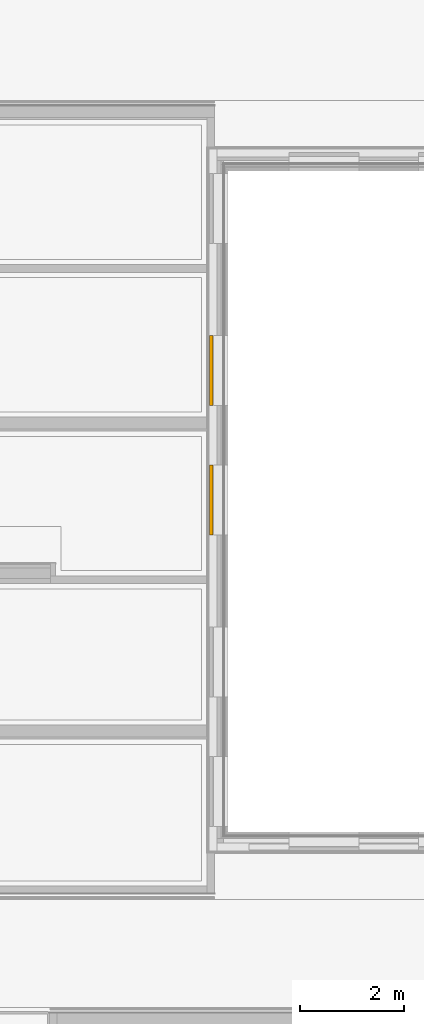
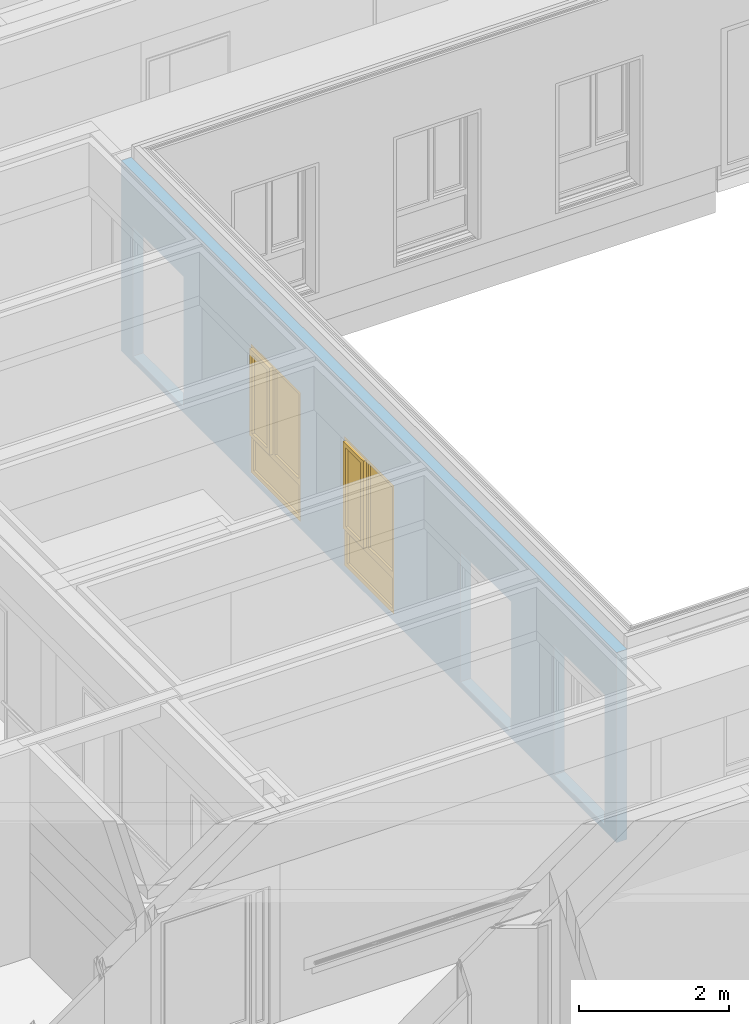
# One storey, part 78 of 207: 2 windows, 5 openings, plus 1 element that does not belong to this part.
"""IFC4 building model written with IfcOpenShell, lengths in metres."""

import ifcopenshell
import ifcopenshell.guid

model = None  # the IFC model being written
_history = None  # IfcOwnerHistory: only IFC2X3 demands one
_inside = {}  # id of a spatial element -> (the spatial element, [elements in it])
_under = {}  # id of a project, library or spatial element -> (it, [spatial elements below it])
_declared = {}  # id of a project -> (the project, [libraries it declares])
_typed = {}  # id of a type object -> (the type object, [elements of that type])
_made_of = {}  # id of a material, layer set ... -> (it, [elements and type objects made of it])


def new_model(schema):
    """Start an empty IFC model of exactly this schema.

    Asked for "IFC4X3", IfcOpenShell would pick the latest addendum, in which some entities
    have other attributes; the version numbers below select the first issue.
    IFC2X3 requires an IfcOwnerHistory on every rooted entity: one is made here for all.
    """
    global model, _history
    if schema == "IFC4X3":
        model = ifcopenshell.file(schema_version=(4, 3, 0, 0))
    else:
        model = ifcopenshell.file(schema=schema)
    _inside.clear()
    _under.clear()
    _declared.clear()
    _typed.clear()
    _made_of.clear()
    _history = None
    if model.schema == "IFC2X3":
        org = make("IfcOrganization", Name="unknown")
        user = make(
            "IfcPersonAndOrganization",
            ThePerson=make("IfcPerson", FamilyName="unknown"),
            TheOrganization=org,
        )
        app = make(
            "IfcApplication",
            ApplicationDeveloper=org,
            Version="unknown",
            ApplicationFullName="unknown",
            ApplicationIdentifier="unknown",
        )
        _history = make(
            "IfcOwnerHistory",
            OwningUser=user,
            OwningApplication=app,
            ChangeAction="ADDED",
            CreationDate=0,
        )
    return model


def make(cls, **values):
    """One entity of the class cls with the attributes given. An attribute that is None is left unset."""
    return model.create_entity(
        cls, **{name: value for name, value in values.items() if value is not None}
    )


def entity(cls, *values):
    """Any entity or typed value of the class cls, its attributes in the order of the schema. None: left unset."""
    e = model.create_entity(cls)
    for i, value in enumerate(values):
        if value is not None:
            e[i] = value
    return e


def rooted(cls, **values):
    """An entity with a GlobalId (a new one), such as an element, a storey or a relation."""
    return make(cls, GlobalId=ifcopenshell.guid.new(), OwnerHistory=_history, **values)


def si_unit(unit_type, name, prefix=None):
    """IfcSIUnit, for example si_unit("LENGTHUNIT", "METRE", prefix="MILLI")."""
    return make("IfcSIUnit", UnitType=unit_type, Prefix=prefix, Name=name)


def converted_unit(unit_type, name, factor, base, dimensions=None, offset=None):
    """IfcConversionBasedUnit, such as the inch: factor (a typed value) times the base unit."""
    return make(
        "IfcConversionBasedUnit"
        if offset is None
        else "IfcConversionBasedUnitWithOffset",
        ConversionOffset=offset,
        Dimensions=None
        if dimensions is None
        else entity("IfcDimensionalExponents", *dimensions),
        UnitType=unit_type,
        Name=name,
        ConversionFactor=make(
            "IfcMeasureWithUnit", ValueComponent=factor, UnitComponent=base
        ),
    )


def derived_unit(unit_type, elements):
    """IfcDerivedUnit: a product of units, each with its exponent."""
    return make(
        "IfcDerivedUnit",
        Elements=[
            make("IfcDerivedUnitElement", Unit=unit, Exponent=power)
            for unit, power in elements
        ],
        UnitType=unit_type,
    )


def assignment(units):
    """IfcUnitAssignment: the units of a project."""
    return None if units is None else make("IfcUnitAssignment", Units=units)


def point(xyz):
    """IfcCartesianPoint."""
    return None if xyz is None else make("IfcCartesianPoint", Coordinates=xyz)


def direction(xyz):
    """IfcDirection."""
    return None if xyz is None else make("IfcDirection", DirectionRatios=xyz)


def frame(location, z_axis=None, x_axis=None):
    """IfcAxis2Placement3D, a coordinate frame: its origin and axes. An axis left out is left unset."""
    return make(
        "IfcAxis2Placement3D",
        Location=point(location),
        Axis=direction(z_axis),
        RefDirection=direction(x_axis),
    )


def frame_2d(location, x_axis=None):
    """IfcAxis2Placement2D, a coordinate frame in the plane: its origin and x axis."""
    return make(
        "IfcAxis2Placement2D", Location=point(location), RefDirection=direction(x_axis)
    )


def origin():
    """The frame at (0, 0, 0) with its axes left unset."""
    return frame((0.0, 0.0, 0.0))


def origin_with_axes():
    """The frame at (0, 0, 0) with the z axis (0, 0, 1) and the x axis (1, 0, 0) written out."""
    return frame((0.0, 0.0, 0.0), z_axis=(0.0, 0.0, 1.0), x_axis=(1.0, 0.0, 0.0))


def place(relative_to, where):
    """IfcLocalPlacement: puts the frame where relative to a parent placement (None: the world)."""
    return make(
        "IfcLocalPlacement", PlacementRelTo=relative_to, RelativePlacement=where
    )


def context(
    kind, dimensions, precision=None, world=None, true_north=None, identifier=None
):
    """IfcGeometricRepresentationContext, for example the 3D "Model" context."""
    return make(
        "IfcGeometricRepresentationContext",
        ContextIdentifier=identifier,
        ContextType=kind,
        CoordinateSpaceDimension=dimensions,
        Precision=precision,
        WorldCoordinateSystem=world,
        TrueNorth=true_north,
    )


def subcontext(parent, identifier, kind, view, scale=None):
    """IfcGeometricRepresentationSubContext, for example "Body" below "Model"."""
    return make(
        "IfcGeometricRepresentationSubContext",
        ContextIdentifier=identifier,
        ContextType=kind,
        ParentContext=parent,
        TargetScale=scale,
        TargetView=view,
    )


def project(units=None, contexts=None):
    """IfcProject with its units and contexts."""
    return rooted(
        "IfcProject",
        Name="project",
        RepresentationContexts=contexts,
        UnitsInContext=assignment(units),
    )


def spatial(cls, under=None, at=None, **own):
    """A site, building, storey or space (cls), placed at a placement, below another one or the project."""
    s = rooted(cls, ObjectPlacement=at, **own)
    if under is not None:
        _under.setdefault(under.id(), (under, []))[1].append(s)
    return s


def polyline(points):
    """IfcPolyline through the points."""
    return make("IfcPolyline", Points=[point(p) for p in points])


def profile(cls, at=None, kind="AREA", **sizes):
    """A parametric profile (cls). Its sizes go by their IFC names, for example OverallWidth=200.0."""
    return make(cls, ProfileType=kind, Position=at, **sizes)


def rectangle(**sizes):
    """IfcRectangleProfileDef."""
    return profile("IfcRectangleProfileDef", **sizes)


def outline(outer, holes=None, kind="AREA"):
    """IfcArbitraryClosedProfileDef: a profile drawn as a closed curve; with holes, ...WithVoids."""
    if holes is None:
        return make("IfcArbitraryClosedProfileDef", ProfileType=kind, OuterCurve=outer)
    return make(
        "IfcArbitraryProfileDefWithVoids",
        ProfileType=kind,
        OuterCurve=outer,
        InnerCurves=holes,
    )


def extrude(swept, where, along, depth):
    """IfcExtrudedAreaSolid: the profile swept, set in the frame where, extruded along a direction by depth."""
    return make(
        "IfcExtrudedAreaSolid",
        SweptArea=swept,
        Position=where,
        ExtrudedDirection=direction(along),
        Depth=depth,
    )


def faces_of(points, faces, orient=None, outer=None):
    """IfcFace entities. A face is a list of loops; a loop is a list of indices into points, from 0.

    orient and outer hold one flag for each loop. By default every Orientation is true, the
    first loop of a face is its IfcFaceOuterBound and the others are IfcFaceBound.
    """
    made = []
    for i, loops in enumerate(faces):
        bounds = []
        for j, loop in enumerate(loops):
            is_outer = j == 0 if outer is None else outer[i][j]
            bounds.append(
                make(
                    "IfcFaceOuterBound" if is_outer else "IfcFaceBound",
                    Bound=make("IfcPolyLoop", Polygon=[points[k] for k in loop]),
                    Orientation=True if orient is None else orient[i][j],
                )
            )
        made.append(make("IfcFace", Bounds=bounds))
    return made


def closed_shell(faces, orient=None, outer=None):
    """The faces of one IfcClosedShell. faceted_brep and surface_model build it on their shared points."""
    return ("IfcClosedShell", faces, orient, outer)


def open_shell(faces, orient=None, outer=None):
    """The faces of one IfcOpenShell. surface_model builds it on its shared points."""
    return ("IfcOpenShell", faces, orient, outer)


def surface_model(cls, points, shells):
    """IfcFaceBasedSurfaceModel or IfcShellBasedSurfaceModel (cls): surfaces that need not close."""
    shared = [point(p) for p in points]
    made = [make(c, CfsFaces=faces_of(shared, fs, o, b)) for c, fs, o, b in shells]
    if cls == "IfcFaceBasedSurfaceModel":
        return make(cls, FbsmFaces=made)
    return make(cls, SbsmBoundary=made)


def shape(context_of_items, identifier, shape_type, items):
    """IfcShapeRepresentation: the items that make up one representation, for example the "Body"."""
    return make(
        "IfcShapeRepresentation",
        ContextOfItems=context_of_items,
        RepresentationIdentifier=identifier,
        RepresentationType=shape_type,
        Items=items,
    )


def source(mapping_origin, context_of_items, identifier, shape_type, items):
    """IfcRepresentationMap: a shape defined once, which mapped items show again and again."""
    return make(
        "IfcRepresentationMap",
        MappingOrigin=mapping_origin,
        MappedRepresentation=shape(context_of_items, identifier, shape_type, items),
    )


def transform(
    local_origin,
    x_axis=None,
    y_axis=None,
    z_axis=None,
    scale=None,
    scale2=None,
    scale3=None,
    uniform=True,
):
    """IfcCartesianTransformationOperator3D, or its non-uniform kind. x_axis, y_axis, z_axis: its Axis1, 2, 3."""
    if uniform:
        return make(
            "IfcCartesianTransformationOperator3D",
            Axis1=direction(x_axis),
            Axis2=direction(y_axis),
            LocalOrigin=point(local_origin),
            Scale=scale,
            Axis3=direction(z_axis),
        )
    return make(
        "IfcCartesianTransformationOperator3DnonUniform",
        Axis1=direction(x_axis),
        Axis2=direction(y_axis),
        LocalOrigin=point(local_origin),
        Scale=scale,
        Axis3=direction(z_axis),
        Scale2=scale2,
        Scale3=scale3,
    )


def mapped(mapping_source, mapping_target):
    """IfcMappedItem: shows the shape of a source again, moved by a transform."""
    return make(
        "IfcMappedItem", MappingSource=mapping_source, MappingTarget=mapping_target
    )


def material(Name=None, Category=None):
    """IfcMaterial."""
    return make("IfcMaterial", Name=Name, Category=Category)


def made_of(thing, what):
    """Note that an element or type object is made of a material, layer set ...; save() writes the relation."""
    if what is not None:
        _made_of.setdefault(what.id(), (what, []))[1].append(thing)
    return thing


def element(
    cls,
    number,
    at=None,
    inside=None,
    cuts=None,
    type_object=None,
    material=None,
    context=None,
    identifier="Body",
    shape_type=None,
    held_by="IfcProductDefinitionShape",
    body=None,
    shapes=None,
    **own,
):
    """One element of the class cls, such as IfcWall. Its Tag is "e" and its number.

    at: its placement. inside: the storey or other place that contains it. cuts: it is an
    opening in that element (IfcRelVoidsElement). A single representation is given by context,
    identifier, shape_type and body (its items); several are given by shapes. held_by: the class
    of the entity that holds the representations. save() writes the other relations.
    """
    e = rooted(cls, Tag="e%d" % number, ObjectPlacement=at, **own)
    if body is not None:
        shapes = [shape(context, identifier, shape_type, body)]
    if shapes is not None:
        e.Representation = make(held_by, Representations=shapes)
    if inside is not None:
        _inside.setdefault(inside.id(), (inside, []))[1].append(e)
    if cuts is not None:
        rooted(
            "IfcRelVoidsElement", RelatingBuildingElement=cuts, RelatedOpeningElement=e
        )
    if type_object is not None:
        _typed.setdefault(type_object.id(), (type_object, []))[1].append(e)
    return made_of(e, material)


def fill(opening, filler):
    """IfcRelFillsElement: the door or window that sits in an opening."""
    return rooted(
        "IfcRelFillsElement",
        RelatingOpeningElement=opening,
        RelatedBuildingElement=filler,
    )


def aggregate(whole, parts):
    """IfcRelAggregates: a whole, such as a stair, and the parts it consists of."""
    return rooted("IfcRelAggregates", RelatingObject=whole, RelatedObjects=parts)


def save(model, path):
    """Write the relations noted so far, then the file.

    IfcRelAggregates (storeys below a building ...), IfcRelContainedInSpatialStructure (elements
    in a storey), IfcRelDefinesByType, IfcRelAssociatesMaterial and IfcRelDeclares: one each for
    every whole, place, type object, material and project.
    """
    for whole, parts in _under.values():
        aggregate(whole, parts)
    for where, things in _inside.values():
        rooted(
            "IfcRelContainedInSpatialStructure",
            RelatedElements=things,
            RelatingStructure=where,
        )
    for kind, things in _typed.values():
        rooted("IfcRelDefinesByType", RelatedObjects=things, RelatingType=kind)
    for what, things in _made_of.values():
        rooted("IfcRelAssociatesMaterial", RelatedObjects=things, RelatingMaterial=what)
    for by, libraries in _declared.values():
        rooted("IfcRelDeclares", RelatingContext=by, RelatedDefinitions=libraries)
    model.write(path)


model = new_model("IFC4")

# Units and contexts
model_context = context("Model", 3, precision=1e-05, world=origin())
body_context = subcontext(model_context, "Body", "Model", "MODEL_VIEW")
ifc_project = project(units=[si_unit("LENGTHUNIT", "METRE"), si_unit("AREAUNIT", "SQUARE_METRE"), si_unit("VOLUMEUNIT", "CUBIC_METRE"), si_unit("MASSUNIT", "GRAM", prefix="KILO"), converted_unit("PLANEANGLEUNIT", "DEGREE", entity("IfcPlaneAngleMeasure", 0.0174532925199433), si_unit("PLANEANGLEUNIT", "RADIAN"), dimensions=[0, 0, 0, 0, 0, 0, 0]), derived_unit("THERMALTRANSMITTANCEUNIT", [(si_unit("POWERUNIT", "WATT"), 1), (si_unit("THERMODYNAMICTEMPERATUREUNIT", "KELVIN"), -1), (si_unit("LENGTHUNIT", "METRE"), -2)]), derived_unit("VOLUMETRICFLOWRATEUNIT", [(si_unit("LENGTHUNIT", "METRE"), 3), (converted_unit("TIMEUNIT", "hour", entity("IfcTimeMeasure", 3600.0), si_unit("TIMEUNIT", "SECOND"), dimensions=[0, 0, 1, 0, 0, 0, 0]), -1), (si_unit("LENGTHUNIT", "METRE"), -1)])], contexts=[model_context])

# Site, building, storey
site_placement = place(None, origin())
site = spatial("IfcSite", under=ifc_project, at=site_placement, Name="Psychiatrie Neubau Wunstorf", CompositionType="ELEMENT")
building_placement = place(site_placement, origin())
building = spatial("IfcBuilding", under=site, at=building_placement, Name="Neubau H2 Stationsgebäude", CompositionType="ELEMENT")
storey_placement = place(building_placement, frame((0.0, 0.0, -0.2)))
storey = spatial("IfcBuildingStorey", under=building, at=storey_placement, Name="H2 Ebene 0", CompositionType="ELEMENT", Elevation=-0.2)

# Wall, openings, windows
ifc_material = material(Name="WA-HD")
wall_placement = place(storey_placement, frame((15.675, 20.84, 0.5), z_axis=(0.0, 0.0, 1.0), x_axis=(-1.3748975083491e-16, -1.0, 0.0)))
wall = element("IfcWall", 1, at=wall_placement, inside=storey, material=ifc_material, context=body_context, shape_type="SweptSolid", body=[
    extrude(rectangle(XDim=13.23, YDim=0.16, at=frame_2d((6.615, 0.08), x_axis=(1.0, 0.0))), origin_with_axes(), (0.0, 0.0, 1.0), 3.1),
])
opening_1_placement = place(wall_placement, frame((12.915, 0.16, 0.1), z_axis=(0.0, -1.0, 0.0), x_axis=(0.0, 0.0, 1.0)))
element("IfcOpeningElement", 2, at=opening_1_placement, cuts=wall, Name="Fensteröffnung", ObjectType="Opening", context=body_context, shape_type="SweptSolid", body=[
    extrude(outline(polyline([(2.12, 1.35), (2.12, 0.0), (0.0, 0.0), (0.0, 1.35), (2.12, 1.35)])), origin_with_axes(), (0.0, 0.0, 1.0), 0.16),
])
opening_2_placement = place(wall_placement, frame((10.415, 0.16, 0.1), z_axis=(0.0, -1.0, 0.0), x_axis=(0.0, 0.0, 1.0)))
element("IfcOpeningElement", 3, at=opening_2_placement, cuts=wall, Name="Fensteröffnung", ObjectType="Opening", context=body_context, shape_type="SweptSolid", body=[
    extrude(outline(polyline([(2.12, 1.35), (2.12, 0.0), (0.0, 0.0), (0.0, 1.35), (2.12, 1.35)])), origin_with_axes(), (0.0, 0.0, 1.0), 0.16),
])
opening_3_placement = place(wall_placement, frame((1.66500000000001, 0.16, 0.1), z_axis=(0.0, -1.0, 0.0), x_axis=(0.0, 0.0, 1.0)))
element("IfcOpeningElement", 4, at=opening_3_placement, cuts=wall, Name="Fensteröffnung", ObjectType="Opening", context=body_context, shape_type="SweptSolid", body=[
    extrude(outline(polyline([(2.12, 1.35), (2.12, 0.0), (0.0, 0.0), (0.0, 1.35), (2.12, 1.35)])), origin_with_axes(), (0.0, 0.0, 1.0), 0.16),
])
opening_4_placement = place(wall_placement, frame((4.79, 0.160000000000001, 0.1), z_axis=(0.0, -1.0, 0.0), x_axis=(0.0, 0.0, 1.0)))
opening_4 = element("IfcOpeningElement", 5, at=opening_4_placement, cuts=wall, Name="Fensteröffnung", ObjectType="Opening", context=body_context, shape_type="SweptSolid", body=[
    extrude(outline(polyline([(2.12, 1.35), (2.12, 0.0), (0.0, 0.0), (0.0, 1.35), (2.12, 1.35)])), origin_with_axes(), (0.0, 0.0, 1.0), 0.16),
])
opening_5_placement = place(wall_placement, frame((7.29, 0.159999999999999, 0.1), z_axis=(0.0, -1.0, 0.0), x_axis=(0.0, 0.0, 1.0)))
opening_5 = element("IfcOpeningElement", 6, at=opening_5_placement, cuts=wall, Name="Fensteröffnung", ObjectType="Opening", context=body_context, shape_type="SweptSolid", body=[
    extrude(outline(polyline([(2.12, 1.35), (2.12, 0.0), (0.0, 0.0), (0.0, 1.35), (2.12, 1.35)])), origin_with_axes(), (0.0, 0.0, 1.0), 0.16),
])
shared_shape_1 = source(origin_with_axes(), body_context, "Body", "SurfaceModel", [
    surface_model("IfcShellBasedSurfaceModel", [(0.0, 0.0, 2.12), (0.0700000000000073, 0.0, 2.12), (0.0700000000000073, 0.0, 0.0), (0.0, 0.0, 0.0), (0.0, 0.0699999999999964, 0.0), (0.0700000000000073, 0.0699999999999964, 0.0), (0.0700000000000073, 0.0699999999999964, 2.12), (0.0, 0.0699999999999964, 2.12)], [closed_shell([[[0, 1, 2, 3]], [[4, 5, 6, 7]], [[3, 4, 7, 0]], [[2, 5, 4, 3]], [[1, 6, 5, 2]], [[0, 7, 6, 1]]], orient=[[False], [False], [False], [False], [False], [False]])]),
    surface_model("IfcShellBasedSurfaceModel", [(1.28000000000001, 0.0, 2.12), (1.35000000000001, 0.0, 2.12), (1.35000000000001, 0.0, 0.0), (1.28000000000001, 0.0, 0.0), (1.28000000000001, 0.0699999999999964, 0.0), (1.35000000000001, 0.0699999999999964, 0.0), (1.35000000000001, 0.0699999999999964, 2.12), (1.28000000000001, 0.0699999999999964, 2.12)], [closed_shell([[[0, 1, 2, 3]], [[4, 5, 6, 7]], [[3, 4, 7, 0]], [[2, 5, 4, 3]], [[1, 6, 5, 2]], [[0, 7, 6, 1]]], orient=[[False], [False], [False], [False], [False], [False]])]),
    surface_model("IfcShellBasedSurfaceModel", [(0.0700000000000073, 0.0, 0.07), (1.28000000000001, 0.0, 0.07), (1.28000000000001, 0.0, 0.0), (0.0700000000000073, 0.0, 0.0), (0.0700000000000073, 0.0699999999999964, 0.0), (1.28000000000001, 0.0699999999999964, 0.0), (1.28000000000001, 0.0699999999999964, 0.07), (0.0700000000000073, 0.0699999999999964, 0.07)], [closed_shell([[[0, 1, 2, 3]], [[4, 5, 6, 7]], [[3, 4, 7, 0]], [[2, 5, 4, 3]], [[1, 6, 5, 2]], [[0, 7, 6, 1]]], orient=[[False], [False], [False], [False], [False], [False]])]),
    surface_model("IfcShellBasedSurfaceModel", [(0.0700000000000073, 0.0, 2.12), (1.28000000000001, 0.0, 2.12), (1.28000000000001, 0.0, 2.05), (0.0700000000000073, 0.0, 2.05), (0.0700000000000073, 0.0699999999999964, 2.05), (1.28000000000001, 0.0699999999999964, 2.05), (1.28000000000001, 0.0699999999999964, 2.12), (0.0700000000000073, 0.0699999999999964, 2.12)], [closed_shell([[[0, 1, 2, 3]], [[4, 5, 6, 7]], [[3, 4, 7, 0]], [[2, 5, 4, 3]], [[1, 6, 5, 2]], [[0, 7, 6, 1]]], orient=[[False], [False], [False], [False], [False], [False]])]),
    surface_model("IfcShellBasedSurfaceModel", [(0.0700000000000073, 0.0, 0.67), (1.28000000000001, 0.0, 0.67), (1.28000000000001, 0.0, 0.57), (0.0700000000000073, 0.0, 0.57), (0.0700000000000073, 0.0699999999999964, 0.57), (1.28000000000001, 0.0699999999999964, 0.57), (1.28000000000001, 0.0699999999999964, 0.67), (0.0700000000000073, 0.0699999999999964, 0.67)], [closed_shell([[[0, 1, 2, 3]], [[4, 5, 6, 7]], [[3, 4, 7, 0]], [[2, 5, 4, 3]], [[1, 6, 5, 2]], [[0, 7, 6, 1]]], orient=[[False], [False], [False], [False], [False], [False]])]),
    surface_model("IfcShellBasedSurfaceModel", [(0.0700000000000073, 0.0349999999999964, 0.07), (0.0700000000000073, 0.0349999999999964, 0.57), (1.28000000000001, 0.0349999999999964, 0.57), (1.28000000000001, 0.0349999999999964, 0.07)], [open_shell([[[0, 1, 2, 3]]], orient=[[False]])]),
    surface_model("IfcShellBasedSurfaceModel", [(0.570000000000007, 0.0, 2.05), (0.640000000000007, 0.0, 2.05), (0.640000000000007, 0.0, 0.67), (0.570000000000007, 0.0, 0.67), (0.570000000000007, 0.0699999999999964, 0.67), (0.640000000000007, 0.0699999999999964, 0.67), (0.640000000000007, 0.0699999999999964, 2.05), (0.570000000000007, 0.0699999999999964, 2.05)], [closed_shell([[[0, 1, 2, 3]], [[4, 5, 6, 7]], [[3, 4, 7, 0]], [[2, 5, 4, 3]], [[1, 6, 5, 2]], [[0, 7, 6, 1]]], orient=[[False], [False], [False], [False], [False], [False]])]),
    surface_model("IfcShellBasedSurfaceModel", [(0.0500000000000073, -0.0500000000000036, 2.07), (0.120000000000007, -0.0500000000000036, 2.07), (0.120000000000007, -0.0500000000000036, 0.65), (0.0500000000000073, -0.0500000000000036, 0.65), (0.0500000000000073, 0.0199999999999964, 0.65), (0.120000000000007, 0.0199999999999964, 0.65), (0.120000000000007, 0.0199999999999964, 2.07), (0.0500000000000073, 0.0199999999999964, 2.07)], [closed_shell([[[0, 1, 2, 3]], [[4, 5, 6, 7]], [[3, 4, 7, 0]], [[2, 5, 4, 3]], [[1, 6, 5, 2]], [[0, 7, 6, 1]]], orient=[[False], [False], [False], [False], [False], [False]])]),
    surface_model("IfcShellBasedSurfaceModel", [(0.520000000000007, -0.0500000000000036, 2.07), (0.590000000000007, -0.0500000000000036, 2.07), (0.590000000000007, -0.0500000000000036, 0.65), (0.520000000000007, -0.0500000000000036, 0.65), (0.520000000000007, 0.0199999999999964, 0.65), (0.590000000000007, 0.0199999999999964, 0.65), (0.590000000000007, 0.0199999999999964, 2.07), (0.520000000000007, 0.0199999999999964, 2.07)], [closed_shell([[[0, 1, 2, 3]], [[4, 5, 6, 7]], [[3, 4, 7, 0]], [[2, 5, 4, 3]], [[1, 6, 5, 2]], [[0, 7, 6, 1]]], orient=[[False], [False], [False], [False], [False], [False]])]),
    surface_model("IfcShellBasedSurfaceModel", [(0.120000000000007, -0.0500000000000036, 0.72), (0.520000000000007, -0.0500000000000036, 0.72), (0.520000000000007, -0.0500000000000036, 0.65), (0.120000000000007, -0.0500000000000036, 0.65), (0.120000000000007, 0.0199999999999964, 0.65), (0.520000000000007, 0.0199999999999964, 0.65), (0.520000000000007, 0.0199999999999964, 0.72), (0.120000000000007, 0.0199999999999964, 0.72)], [closed_shell([[[0, 1, 2, 3]], [[4, 5, 6, 7]], [[3, 4, 7, 0]], [[2, 5, 4, 3]], [[1, 6, 5, 2]], [[0, 7, 6, 1]]], orient=[[False], [False], [False], [False], [False], [False]])]),
    surface_model("IfcShellBasedSurfaceModel", [(0.120000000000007, -0.0500000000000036, 2.07), (0.520000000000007, -0.0500000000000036, 2.07), (0.520000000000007, -0.0500000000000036, 2.0), (0.120000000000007, -0.0500000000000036, 2.0), (0.120000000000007, 0.0199999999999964, 2.0), (0.520000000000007, 0.0199999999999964, 2.0), (0.520000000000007, 0.0199999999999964, 2.07), (0.120000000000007, 0.0199999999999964, 2.07)], [closed_shell([[[0, 1, 2, 3]], [[4, 5, 6, 7]], [[3, 4, 7, 0]], [[2, 5, 4, 3]], [[1, 6, 5, 2]], [[0, 7, 6, 1]]], orient=[[False], [False], [False], [False], [False], [False]])]),
    surface_model("IfcShellBasedSurfaceModel", [(0.640000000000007, 0.0349999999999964, 0.67), (0.640000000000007, 0.0349999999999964, 2.05), (1.28000000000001, 0.0349999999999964, 2.05), (1.28000000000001, 0.0349999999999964, 0.67)], [open_shell([[[0, 1, 2, 3]]], orient=[[False]])]),
    surface_model("IfcShellBasedSurfaceModel", [(0.120000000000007, -0.0150000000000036, 0.72), (0.120000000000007, -0.0150000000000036, 2.0), (0.520000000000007, -0.0150000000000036, 2.0), (0.520000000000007, -0.0150000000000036, 0.72)], [open_shell([[[0, 1, 2, 3]]], orient=[[False]])]),
])
window_1_placement = place(opening_4_placement, frame((0.0, 1.35, 0.146), z_axis=(1.0, 0.0, 0.0), x_axis=(0.0, -1.0, -1.3748975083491e-16)))
window_1 = element("IfcWindow", 7, at=window_1_placement, inside=storey, Name="Fenster", OverallHeight=2.12, OverallWidth=1.35, PartitioningType="USERDEFINED", PredefinedType="WINDOW", context=body_context, shape_type="MappedRepresentation", body=[
    mapped(shared_shape_1, transform((0.0, 0.0, 0.0), x_axis=(1.0, 0.0, 0.0), y_axis=(0.0, 1.0, 0.0), z_axis=(0.0, 0.0, 1.0), scale=1.0)),
])
fill(opening_4, window_1)
shared_shape_2 = source(origin_with_axes(), body_context, "Body", "SurfaceModel", [
    surface_model("IfcShellBasedSurfaceModel", [(0.0, 0.0, 2.12), (0.0700000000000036, 0.0, 2.12), (0.0700000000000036, 0.0, 0.0), (0.0, 0.0, 0.0), (0.0, 0.0699999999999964, 0.0), (0.0700000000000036, 0.0699999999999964, 0.0), (0.0700000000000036, 0.0699999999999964, 2.12), (0.0, 0.0699999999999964, 2.12)], [closed_shell([[[0, 1, 2, 3]], [[4, 5, 6, 7]], [[3, 4, 7, 0]], [[2, 5, 4, 3]], [[1, 6, 5, 2]], [[0, 7, 6, 1]]], orient=[[False], [False], [False], [False], [False], [False]])]),
    surface_model("IfcShellBasedSurfaceModel", [(1.28, 0.0, 2.12), (1.35, 0.0, 2.12), (1.35, 0.0, 0.0), (1.28, 0.0, 0.0), (1.28, 0.0699999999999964, 0.0), (1.35, 0.0699999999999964, 0.0), (1.35, 0.0699999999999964, 2.12), (1.28, 0.0699999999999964, 2.12)], [closed_shell([[[0, 1, 2, 3]], [[4, 5, 6, 7]], [[3, 4, 7, 0]], [[2, 5, 4, 3]], [[1, 6, 5, 2]], [[0, 7, 6, 1]]], orient=[[False], [False], [False], [False], [False], [False]])]),
    surface_model("IfcShellBasedSurfaceModel", [(0.0700000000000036, 0.0, 0.07), (1.28, 0.0, 0.07), (1.28, 0.0, 0.0), (0.0700000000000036, 0.0, 0.0), (0.0700000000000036, 0.0699999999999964, 0.0), (1.28, 0.0699999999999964, 0.0), (1.28, 0.0699999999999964, 0.07), (0.0700000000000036, 0.0699999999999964, 0.07)], [closed_shell([[[0, 1, 2, 3]], [[4, 5, 6, 7]], [[3, 4, 7, 0]], [[2, 5, 4, 3]], [[1, 6, 5, 2]], [[0, 7, 6, 1]]], orient=[[False], [False], [False], [False], [False], [False]])]),
    surface_model("IfcShellBasedSurfaceModel", [(0.0700000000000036, 0.0, 2.12), (1.28, 0.0, 2.12), (1.28, 0.0, 2.05), (0.0700000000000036, 0.0, 2.05), (0.0700000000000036, 0.0699999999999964, 2.05), (1.28, 0.0699999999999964, 2.05), (1.28, 0.0699999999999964, 2.12), (0.0700000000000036, 0.0699999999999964, 2.12)], [closed_shell([[[0, 1, 2, 3]], [[4, 5, 6, 7]], [[3, 4, 7, 0]], [[2, 5, 4, 3]], [[1, 6, 5, 2]], [[0, 7, 6, 1]]], orient=[[False], [False], [False], [False], [False], [False]])]),
    surface_model("IfcShellBasedSurfaceModel", [(0.0700000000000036, 0.0, 0.67), (1.28, 0.0, 0.67), (1.28, 0.0, 0.57), (0.0700000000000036, 0.0, 0.57), (0.0700000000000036, 0.0699999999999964, 0.57), (1.28, 0.0699999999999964, 0.57), (1.28, 0.0699999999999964, 0.67), (0.0700000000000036, 0.0699999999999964, 0.67)], [closed_shell([[[0, 1, 2, 3]], [[4, 5, 6, 7]], [[3, 4, 7, 0]], [[2, 5, 4, 3]], [[1, 6, 5, 2]], [[0, 7, 6, 1]]], orient=[[False], [False], [False], [False], [False], [False]])]),
    surface_model("IfcShellBasedSurfaceModel", [(0.0700000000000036, 0.0349999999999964, 0.07), (0.0700000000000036, 0.0349999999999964, 0.57), (1.28, 0.0349999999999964, 0.57), (1.28, 0.0349999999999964, 0.07)], [open_shell([[[0, 1, 2, 3]]], orient=[[False]])]),
    surface_model("IfcShellBasedSurfaceModel", [(0.570000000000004, 0.0, 2.05), (0.640000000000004, 0.0, 2.05), (0.640000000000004, 0.0, 0.67), (0.570000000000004, 0.0, 0.67), (0.570000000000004, 0.0699999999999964, 0.67), (0.640000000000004, 0.0699999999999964, 0.67), (0.640000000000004, 0.0699999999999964, 2.05), (0.570000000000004, 0.0699999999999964, 2.05)], [closed_shell([[[0, 1, 2, 3]], [[4, 5, 6, 7]], [[3, 4, 7, 0]], [[2, 5, 4, 3]], [[1, 6, 5, 2]], [[0, 7, 6, 1]]], orient=[[False], [False], [False], [False], [False], [False]])]),
    surface_model("IfcShellBasedSurfaceModel", [(0.0500000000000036, -0.0500000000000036, 2.07), (0.120000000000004, -0.0500000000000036, 2.07), (0.120000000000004, -0.0500000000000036, 0.65), (0.0500000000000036, -0.0500000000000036, 0.65), (0.0500000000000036, 0.0199999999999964, 0.65), (0.120000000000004, 0.0199999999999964, 0.65), (0.120000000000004, 0.0199999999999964, 2.07), (0.0500000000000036, 0.0199999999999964, 2.07)], [closed_shell([[[0, 1, 2, 3]], [[4, 5, 6, 7]], [[3, 4, 7, 0]], [[2, 5, 4, 3]], [[1, 6, 5, 2]], [[0, 7, 6, 1]]], orient=[[False], [False], [False], [False], [False], [False]])]),
    surface_model("IfcShellBasedSurfaceModel", [(0.520000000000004, -0.0500000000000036, 2.07), (0.590000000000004, -0.0500000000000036, 2.07), (0.590000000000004, -0.0500000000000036, 0.65), (0.520000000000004, -0.0500000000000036, 0.65), (0.520000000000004, 0.0199999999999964, 0.65), (0.590000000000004, 0.0199999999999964, 0.65), (0.590000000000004, 0.0199999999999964, 2.07), (0.520000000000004, 0.0199999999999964, 2.07)], [closed_shell([[[0, 1, 2, 3]], [[4, 5, 6, 7]], [[3, 4, 7, 0]], [[2, 5, 4, 3]], [[1, 6, 5, 2]], [[0, 7, 6, 1]]], orient=[[False], [False], [False], [False], [False], [False]])]),
    surface_model("IfcShellBasedSurfaceModel", [(0.120000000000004, -0.0500000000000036, 0.72), (0.520000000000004, -0.0500000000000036, 0.72), (0.520000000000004, -0.0500000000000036, 0.65), (0.120000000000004, -0.0500000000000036, 0.65), (0.120000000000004, 0.0199999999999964, 0.65), (0.520000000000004, 0.0199999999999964, 0.65), (0.520000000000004, 0.0199999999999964, 0.72), (0.120000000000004, 0.0199999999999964, 0.72)], [closed_shell([[[0, 1, 2, 3]], [[4, 5, 6, 7]], [[3, 4, 7, 0]], [[2, 5, 4, 3]], [[1, 6, 5, 2]], [[0, 7, 6, 1]]], orient=[[False], [False], [False], [False], [False], [False]])]),
    surface_model("IfcShellBasedSurfaceModel", [(0.120000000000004, -0.0500000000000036, 2.07), (0.520000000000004, -0.0500000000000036, 2.07), (0.520000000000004, -0.0500000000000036, 2.0), (0.120000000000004, -0.0500000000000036, 2.0), (0.120000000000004, 0.0199999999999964, 2.0), (0.520000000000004, 0.0199999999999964, 2.0), (0.520000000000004, 0.0199999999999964, 2.07), (0.120000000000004, 0.0199999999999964, 2.07)], [closed_shell([[[0, 1, 2, 3]], [[4, 5, 6, 7]], [[3, 4, 7, 0]], [[2, 5, 4, 3]], [[1, 6, 5, 2]], [[0, 7, 6, 1]]], orient=[[False], [False], [False], [False], [False], [False]])]),
    surface_model("IfcShellBasedSurfaceModel", [(0.640000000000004, 0.0349999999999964, 0.67), (0.640000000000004, 0.0349999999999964, 2.05), (1.28, 0.0349999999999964, 2.05), (1.28, 0.0349999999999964, 0.67)], [open_shell([[[0, 1, 2, 3]]], orient=[[False]])]),
    surface_model("IfcShellBasedSurfaceModel", [(0.120000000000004, -0.0150000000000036, 0.72), (0.120000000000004, -0.0150000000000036, 2.0), (0.520000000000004, -0.0150000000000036, 2.0), (0.520000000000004, -0.0150000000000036, 0.72)], [open_shell([[[0, 1, 2, 3]]], orient=[[False]])]),
])
window_2_placement = place(opening_5_placement, frame((0.0, 1.35, 0.146), z_axis=(1.0, 0.0, 0.0), x_axis=(0.0, -1.0, -1.3748975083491e-16)))
window_2 = element("IfcWindow", 8, at=window_2_placement, inside=storey, Name="Fenster", OverallHeight=2.12, OverallWidth=1.35, PartitioningType="USERDEFINED", PredefinedType="WINDOW", context=body_context, shape_type="MappedRepresentation", body=[
    mapped(shared_shape_2, transform((0.0, 0.0, 0.0), x_axis=(1.0, 0.0, 0.0), y_axis=(0.0, 1.0, 0.0), z_axis=(0.0, 0.0, 1.0), scale=1.0)),
])
fill(opening_5, window_2)

save(model, "model.ifc")
